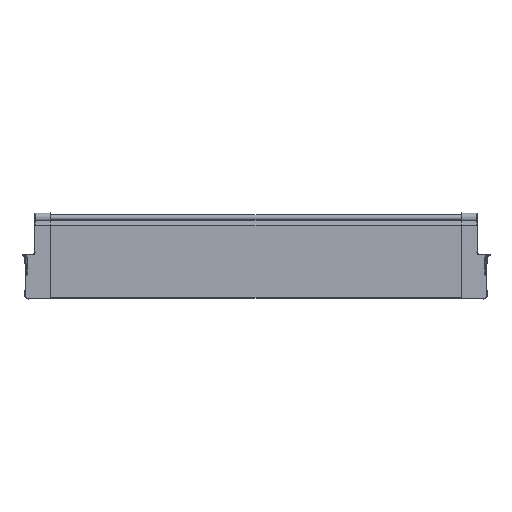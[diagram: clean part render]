
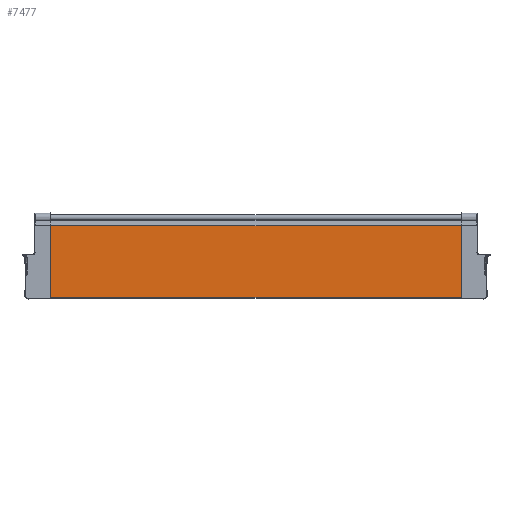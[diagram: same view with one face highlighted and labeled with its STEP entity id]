
A CAD part, top view. The second image highlights one B-rep face of the part: STEP entity #7477.
In plain terms, the highlighted planar face has unit normal (0, 0, 1).
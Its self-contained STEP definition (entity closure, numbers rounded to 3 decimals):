
#2203 = AXIS2_PLACEMENT_3D ( 'NONE', #2261, #2260, #2259 ) ;
#2204 = PLANE ( 'NONE',  #2203 ) ;
#2205 = FACE_OUTER_BOUND ( 'NONE', #7478, .T. ) ;
#2206 = DIRECTION ( 'NONE',  ( -1., 0., 0. ) ) ;
#2207 = VECTOR ( 'NONE', #2206, 1000. ) ;
#2208 = CARTESIAN_POINT ( 'NONE',  ( 89.157, 45.248, 4.05 ) ) ;
#2209 = LINE ( 'NONE', #2208, #2207 ) ;
#2210 = CARTESIAN_POINT ( 'NONE',  ( -668.3, 45.248, 4.05 ) ) ;
#2259 = DIRECTION ( 'NONE',  ( 0., 1., 0. ) ) ;
#2260 = DIRECTION ( 'NONE',  ( 0., 0., -1. ) ) ;
#2261 = CARTESIAN_POINT ( 'NONE',  ( 89.157, 45.248, 4.05 ) ) ;
#2340 = DIRECTION ( 'NONE',  ( -1., 0., 0. ) ) ;
#2341 = VECTOR ( 'NONE', #2340, 1000. ) ;
#2342 = CARTESIAN_POINT ( 'NONE',  ( 89.157, -64.725, 4.05 ) ) ;
#2343 = LINE ( 'NONE', #2342, #2341 ) ;
#2344 = CARTESIAN_POINT ( 'NONE',  ( -668.3, -64.725, 4.05 ) ) ;
#2345 = DIRECTION ( 'NONE',  ( 0., -1., 0. ) ) ;
#2346 = VECTOR ( 'NONE', #2345, 1000. ) ;
#2347 = CARTESIAN_POINT ( 'NONE',  ( -668.3, 45.248, 4.05 ) ) ;
#2348 = LINE ( 'NONE', #2347, #2346 ) ;
#6029 = CARTESIAN_POINT ( 'NONE',  ( -38.8, 45.248, 4.05 ) ) ;
#6030 = CARTESIAN_POINT ( 'NONE',  ( -38.8, -64.725, 4.05 ) ) ;
#6031 = DIRECTION ( 'NONE',  ( 0., -1., 0. ) ) ;
#6032 = VECTOR ( 'NONE', #6031, 1000. ) ;
#6033 = CARTESIAN_POINT ( 'NONE',  ( -38.8, 45.248, 4.05 ) ) ;
#6034 = LINE ( 'NONE', #6033, #6032 ) ;
#7474 = VERTEX_POINT ( 'NONE', #2210 ) ;
#7476 = EDGE_CURVE ( 'NONE', #8651, #7474, #2209, .T. ) ;
#7477 = ADVANCED_FACE ( 'NONE', ( #2205 ), #2204, .F. ) ;
#7478 = EDGE_LOOP ( 'NONE', ( #7479, #7480, #7532, #7535 ) ) ;
#7479 = ORIENTED_EDGE ( 'NONE', *, *, #8649, .F. ) ;
#7480 = ORIENTED_EDGE ( 'NONE', *, *, #7476, .T. ) ;
#7532 = ORIENTED_EDGE ( 'NONE', *, *, #7533, .T. ) ;
#7533 = EDGE_CURVE ( 'NONE', #7474, #7534, #2348, .T. ) ;
#7534 = VERTEX_POINT ( 'NONE', #2344 ) ;
#7535 = ORIENTED_EDGE ( 'NONE', *, *, #7536, .F. ) ;
#7536 = EDGE_CURVE ( 'NONE', #8650, #7534, #2343, .T. ) ;
#8649 = EDGE_CURVE ( 'NONE', #8651, #8650, #6034, .T. ) ;
#8650 = VERTEX_POINT ( 'NONE', #6030 ) ;
#8651 = VERTEX_POINT ( 'NONE', #6029 ) ;
